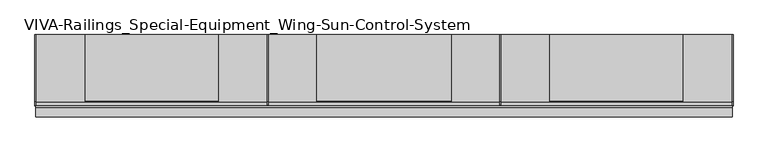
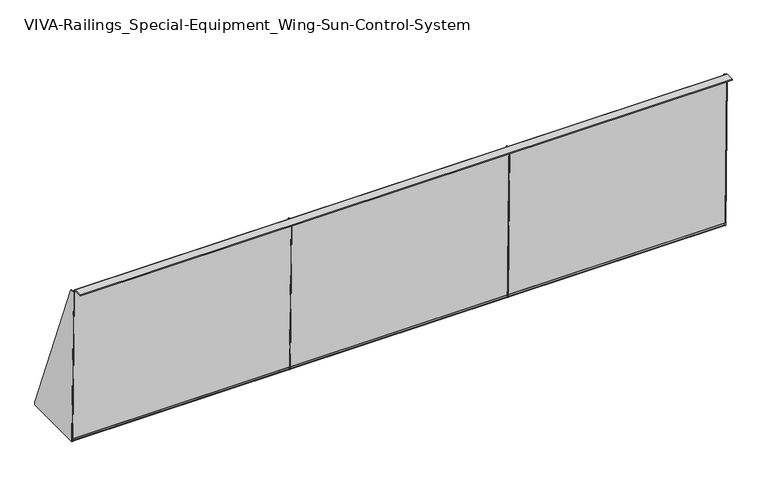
"""IFC4 building model written with IfcOpenShell, lengths in millimetres: proxy geometry, VIVA-Railings_Special-Equipment_Wing-Sun-Control-System : 1’ 6” x 6’ - Stainless Steel 0.078''."""

from ifc_helpers import new_model, si_unit, point, frame, frame_2d, origin, place, context, project, spatial, polyline, circle_curve, trimmed, segment, composite_curve, outline, extrude, faceted_brep, source, transform, mapped, element, save


def viva_railings_special_equipment_wing_sun_control_system_6e11d3c2(model_context):
    return source(origin(), model_context, "Body", "SolidModel", [
        extrude(outline(polyline([(-79.4113283, 447.6663805), (-77.4298077, 447.6663805), (-69.5588046, 10.1350663), (-71.5403251, 10.1350663), (-79.4113283, 447.6663805)])), frame((-164.1078125, 0.0, 0.0), z_axis=(1.0, 0.0, 0.0), x_axis=(0.0, 1.0, 0.0)), (0.0, 0.0, 1.0), 607.615625),
        extrude(outline(polyline([(-79.4113283, 447.6663805), (-77.4298077, 447.6663805), (-69.5588046, 10.1350663), (-71.5403251, 10.1350663), (-79.4113283, 447.6663805)])), frame((445.4921875, 0.0, 0.0), z_axis=(1.0, 0.0, 0.0), x_axis=(0.0, 1.0, 0.0)), (0.0, 0.0, 1.0), 606.6266125),
        extrude(outline(polyline([(-79.4113283, 447.6663805), (-77.4298077, 447.6663805), (-69.5588046, 10.1350663), (-71.5403251, 10.1350663), (-79.4113283, 447.6663805)])), frame((-772.7188, 0.0, 0.0), z_axis=(1.0, 0.0, 0.0), x_axis=(0.0, 1.0, 0.0)), (0.0, 0.0, 1.0), 606.6266125),
        faceted_brep([(-772.7188, 107.95, 9.525), (-772.7188, -66.711208, 447.6663805), (-772.7188, -79.4113283, 447.6663805), (-772.7188, -71.3936405, 1.9812), (-772.7188, -70.0795564, 1.9812), (-772.7188, -70.0795564, 9.525), (-774.7, -71.3936405, 1.9812), (-774.7, -79.4113283, 447.6663805), (-774.7, -66.711208, 447.6663805), (-774.7, 107.95, 9.525), (-774.7, 107.95, 1.9812), (-644.525, 107.95, 1.9812), (-644.525, -70.0795564, 1.9812), (-644.525, 107.95, 9.525), (-644.525, -70.0795564, 9.525)], [[[0, 1, 2, 3, 4, 5]], [[6, 7, 8, 9, 10]], [[6, 10, 11, 12, 4, 3]], [[11, 10, 9, 0, 13]], [[1, 0, 9, 8]], [[2, 1, 8, 7]], [[3, 2, 7, 6]], [[13, 0, 5, 14]], [[14, 5, 4, 12]], [[13, 14, 12, 11]]]),
        faceted_brep([(1054.1, 107.95, 1.9812), (1054.1, -71.3936405, 1.9812), (1052.1188, -71.3936405, 1.9812), (1052.1188, -70.0795564, 1.9812), (923.925, -70.0795564, 1.9812), (923.925, 107.95, 1.9812), (1052.1188, -79.4113283, 447.6663805), (1052.1188, -66.711208, 447.6663805), (1052.1188, 107.95, 9.525), (1052.1188, -70.0795564, 9.525), (1054.1, 107.95, 9.525), (1054.1, -66.711208, 447.6663805), (1054.1, -79.4113283, 447.6663805), (923.925, 107.95, 9.525), (923.925, -70.0795564, 9.525)], [[[0, 1, 2, 3, 4, 5]], [[2, 6, 7, 8, 9, 3]], [[1, 0, 10, 11, 12]], [[10, 0, 5, 13, 8]], [[8, 7, 11, 10]], [[7, 6, 12, 11]], [[6, 2, 1, 12]], [[13, 14, 9, 8]], [[14, 13, 5, 4]], [[9, 14, 4, 3]]]),
        faceted_brep([(-293.0906, -70.0795564, 1.9812), (-293.0906, 107.95, 1.9812), (-37.1094, 107.95, 1.9812), (-37.1094, -70.0795564, 1.9812), (-163.5125, -70.0795564, 1.9812), (-163.5125, -71.3936405, 1.9812), (-166.6875, -71.3936405, 1.9812), (-166.6875, -70.0795564, 1.9812), (-163.5125, 107.95, 9.525), (-163.5125, -66.711208, 447.6663805), (-163.5125, -79.4113283, 447.6663805), (-163.5125, -70.0795564, 9.525), (-166.6875, -79.4113283, 447.6663805), (-166.6875, -66.711208, 447.6663805), (-166.6875, 107.95, 9.525), (-166.6875, -70.0795564, 9.525), (-293.0906, 107.95, 9.525), (-37.1094, 107.95, 9.525), (-293.0906, -70.0795564, 9.525), (-37.1094, -70.0795564, 9.525)], [[[0, 1, 2, 3, 4, 5, 6, 7]], [[8, 9, 10, 5, 4, 11]], [[6, 12, 13, 14, 15, 7]], [[2, 1, 16, 14, 8, 17]], [[9, 8, 14, 13]], [[10, 9, 13, 12]], [[5, 10, 12, 6]], [[16, 18, 15, 14]], [[19, 17, 8, 11]], [[18, 16, 1, 0]], [[18, 0, 7, 15]], [[3, 19, 11, 4]], [[17, 19, 3, 2]]]),
        faceted_brep([(316.5094, -70.0795564, 1.9812), (316.5094, 107.95, 1.9812), (572.4906, 107.95, 1.9812), (572.4906, -70.0795564, 1.9812), (446.0875, -70.0795564, 1.9812), (446.0875, -71.3936405, 1.9812), (442.9125, -71.3936405, 1.9812), (442.9125, -70.0795564, 1.9812), (442.9125, -79.4113283, 447.6663805), (442.9125, -66.711208, 447.6663805), (442.9125, 107.95, 9.525), (442.9125, -70.0795564, 9.525), (446.0875, 107.95, 9.525), (446.0875, -66.711208, 447.6663805), (446.0875, -79.4113283, 447.6663805), (446.0875, -70.0795564, 9.525), (316.5094, 107.95, 9.525), (572.4906, 107.95, 9.525), (572.4906, -70.0795564, 9.525), (316.5094, -70.0795564, 9.525)], [[[0, 1, 2, 3, 4, 5, 6, 7]], [[6, 8, 9, 10, 11, 7]], [[12, 13, 14, 5, 4, 15]], [[2, 1, 16, 10, 12, 17]], [[12, 10, 9, 13]], [[9, 8, 14, 13]], [[8, 6, 5, 14]], [[18, 17, 12, 15]], [[16, 19, 11, 10]], [[3, 18, 15, 4]], [[17, 18, 3, 2]], [[19, 16, 1, 0]], [[19, 0, 7, 11]]]),
        extrude(outline(composite_curve([segment(polyline([(107.95, 1.9812), (107.95, 0.0), (-66.3004524, 0.0)]), True, "CONTINUOUS"), segment(trimmed(circle_curve(frame_2d((-66.3004524, 5.2047216)), 5.2047216), [point((-66.3004524, 0.0))], [point((-71.4364669, 4.3618207))], False, "CARTESIAN"), True, "CONTINUOUS"), segment(polyline([(-71.4364669, 4.3618207), (-71.5403251, 10.1350663), (-69.5588046, 10.1350663), (-69.4515217, 4.1714552)]), True, "CONTINUOUS"), segment(trimmed(circle_curve(frame_2d((-66.3095569, 5.3299333)), 3.3487333), [point((-69.4515217, 4.1714552))], [point((-66.3095569, 1.9812))], True, "CARTESIAN"), True, "CONTINUOUS"), segment(polyline([(-66.3095569, 1.9812), (107.95, 1.9812)]), True, "CONTINUOUS")], self_intersect=False)), frame((-772.7188, 0.0, 0.0), z_axis=(1.0, 0.0, 0.0), x_axis=(0.0, 1.0, 0.0)), (0.0, 0.0, 1.0), 1824.8376),
        extrude(outline(composite_curve([segment(polyline([(-107.95, 457.2), (-83.7243985, 457.2)]), True, "CONTINUOUS"), segment(trimmed(circle_curve(frame_2d((-83.7243985, 450.8499964)), 6.3500036), [point((-83.7243985, 457.2))], [point((-77.5106138, 452.1582108))], False, "CARTESIAN"), True, "CONTINUOUS"), segment(polyline([(-77.5106138, 452.1582108), (-77.4298077, 447.6663805), (-79.4113283, 447.6663805), (-79.4911035, 452.1009077)]), True, "CONTINUOUS"), segment(trimmed(circle_curve(frame_2d((-82.6655899, 452.0438)), 3.175), [point((-79.4911035, 452.1009077))], [point((-82.6655899, 455.2188))], True, "CARTESIAN"), True, "CONTINUOUS"), segment(polyline([(-82.6655899, 455.2188), (-107.95, 455.2188), (-107.95, 457.2)]), True, "CONTINUOUS")], self_intersect=False)), frame((-772.7188, 0.0, 0.0), z_axis=(1.0, 0.0, 0.0), x_axis=(0.0, 1.0, 0.0)), (0.0, 0.0, 1.0), 1824.8376),
    ])


if __name__ == "__main__":
    model = new_model("IFC4")
    model_context = context("Model", 3, world=origin())
    ifc_project = project(units=[si_unit("LENGTHUNIT", "METRE", prefix="MILLI")], contexts=[model_context])
    site = spatial("IfcSite", under=ifc_project)
    building = spatial("IfcBuilding", under=site)
    placement = place(None, origin())
    viva_railings_special_equipment_wing_sun_control_system_shape = viva_railings_special_equipment_wing_sun_control_system_6e11d3c2(model_context)
    element("IfcBuildingElementProxy", 1, Name="VIVA-Railings_Special-Equipment_Wing-Sun-Control-System : 1’ 6” x 6’ - Stainless Steel 0.078''", ObjectType="VIVA-Railings_Special-Equipment_Wing-Sun-Control-System : 1’ 6” x 6’ - Stainless Steel 0.078''", at=placement, inside=building, context=model_context, shape_type="MappedRepresentation", body=[
        mapped(viva_railings_special_equipment_wing_sun_control_system_shape, transform((0.0, 0.0, 0.0), x_axis=(1.0, 0.0, 0.0), y_axis=(0.0, 1.0, 0.0), z_axis=(0.0, 0.0, 1.0))),
    ])
    save(model, "model.ifc")
